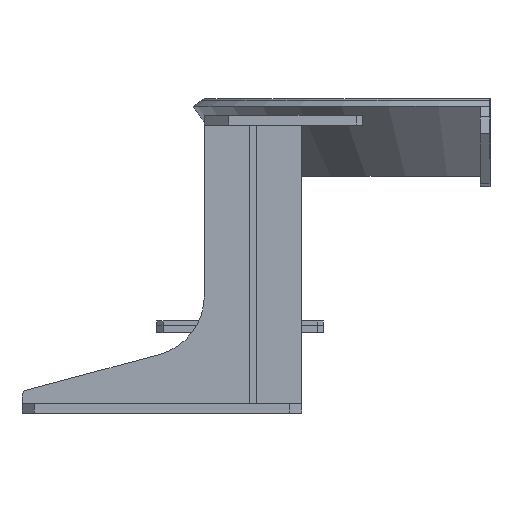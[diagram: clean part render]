
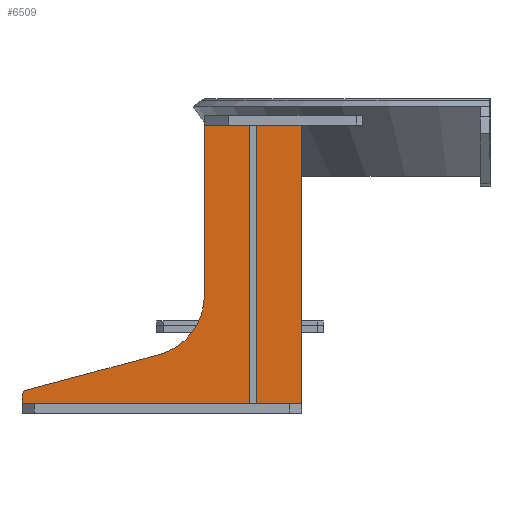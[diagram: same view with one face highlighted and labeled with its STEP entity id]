
A CAD part, left-side view. The second image highlights one B-rep face of the part: STEP entity #6509.
In plain terms, the highlighted planar face has unit normal (-1, 0, 0).
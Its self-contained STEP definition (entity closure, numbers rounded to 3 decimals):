
#1795=PLANE('',#7007);
#2061=FACE_OUTER_BOUND('',#2386,.T.);
#2386=EDGE_LOOP('',(#6060,#6061,#6062,#6063,#6064,#6065,#6066,#6067));
#2858=LINE('',#10001,#3351);
#2859=LINE('',#10003,#3352);
#2860=LINE('',#10005,#3353);
#2861=LINE('',#10007,#3354);
#2862=LINE('',#10009,#3355);
#2863=LINE('',#10012,#3356);
#3351=VECTOR('',#8437,10.);
#3352=VECTOR('',#8438,10.);
#3353=VECTOR('',#8439,10.);
#3354=VECTOR('',#8440,10.);
#3355=VECTOR('',#8441,10.);
#3356=VECTOR('',#8444,10.);
#3576=CIRCLE('',#7006,5.);
#3577=CIRCLE('',#7008,50.);
#4071=VERTEX_POINT('',#9994);
#4072=VERTEX_POINT('',#9996);
#4073=VERTEX_POINT('',#10000);
#4074=VERTEX_POINT('',#10002);
#4075=VERTEX_POINT('',#10004);
#4076=VERTEX_POINT('',#10006);
#4077=VERTEX_POINT('',#10008);
#4078=VERTEX_POINT('',#10010);
#4740=EDGE_CURVE('',#4071,#4072,#3576,.T.);
#4742=EDGE_CURVE('',#4073,#4071,#2858,.T.);
#4743=EDGE_CURVE('',#4074,#4073,#2859,.T.);
#4744=EDGE_CURVE('',#4074,#4075,#2860,.T.);
#4745=EDGE_CURVE('',#4075,#4076,#2861,.T.);
#4746=EDGE_CURVE('',#4077,#4076,#2862,.T.);
#4747=EDGE_CURVE('',#4078,#4077,#3577,.T.);
#4748=EDGE_CURVE('',#4072,#4078,#2863,.T.);
#6060=ORIENTED_EDGE('',*,*,#4740,.F.);
#6061=ORIENTED_EDGE('',*,*,#4742,.F.);
#6062=ORIENTED_EDGE('',*,*,#4743,.F.);
#6063=ORIENTED_EDGE('',*,*,#4744,.T.);
#6064=ORIENTED_EDGE('',*,*,#4745,.T.);
#6065=ORIENTED_EDGE('',*,*,#4746,.F.);
#6066=ORIENTED_EDGE('',*,*,#4747,.F.);
#6067=ORIENTED_EDGE('',*,*,#4748,.F.);
#6509=ADVANCED_FACE('',(#2061),#1795,.T.);
#7006=AXIS2_PLACEMENT_3D('',#9997,#8432,#8433);
#7007=AXIS2_PLACEMENT_3D('',#9999,#8435,#8436);
#7008=AXIS2_PLACEMENT_3D('',#10011,#8442,#8443);
#8432=DIRECTION('center_axis',(1.,0.,0.));
#8433=DIRECTION('ref_axis',(0.,0.793,0.609));
#8435=DIRECTION('center_axis',(-1.,0.,0.));
#8436=DIRECTION('ref_axis',(0.,-1.,0.));
#8437=DIRECTION('',(0.,0.,1.));
#8438=DIRECTION('',(0.,1.,0.));
#8439=DIRECTION('',(0.,0.,1.));
#8440=DIRECTION('',(0.,1.,0.));
#8441=DIRECTION('',(0.,0.,1.));
#8442=DIRECTION('center_axis',(-1.,0.,0.));
#8443=DIRECTION('ref_axis',(0.,-0.793,-0.609));
#8444=DIRECTION('',(0.,-0.966,0.259));
#9994=CARTESIAN_POINT('',(-182.5,190.,14.163));
#9996=CARTESIAN_POINT('',(-182.5,186.294,18.993));
#9997=CARTESIAN_POINT('Origin',(-182.5,185.,14.163));
#9999=CARTESIAN_POINT('Origin',(-182.5,40.,8.));
#10000=CARTESIAN_POINT('',(-182.5,190.,8.));
#10001=CARTESIAN_POINT('',(-182.5,190.,8.));
#10002=CARTESIAN_POINT('',(-182.5,-40.,8.));
#10003=CARTESIAN_POINT('',(-182.5,-30.,8.));
#10004=CARTESIAN_POINT('',(-182.5,-40.,237.));
#10005=CARTESIAN_POINT('',(-182.5,-40.,8.));
#10006=CARTESIAN_POINT('',(-182.5,40.,237.));
#10007=CARTESIAN_POINT('',(-182.5,20.,237.));
#10008=CARTESIAN_POINT('',(-182.5,40.,96.559));
#10009=CARTESIAN_POINT('',(-182.5,40.,8.));
#10010=CARTESIAN_POINT('',(-182.5,77.059,48.262));
#10011=CARTESIAN_POINT('Origin',(-182.5,90.,96.559));
#10012=CARTESIAN_POINT('',(-182.5,190.,18.));
